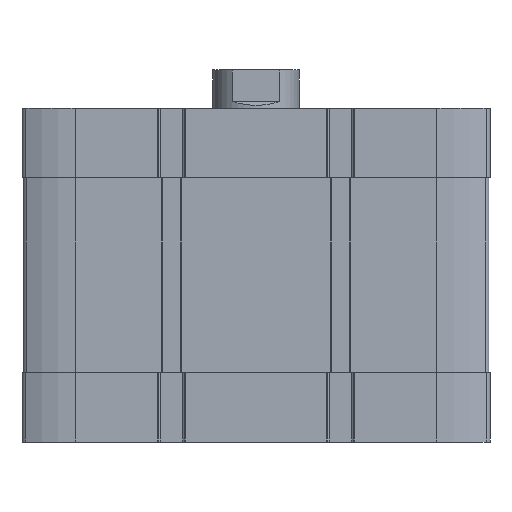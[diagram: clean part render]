
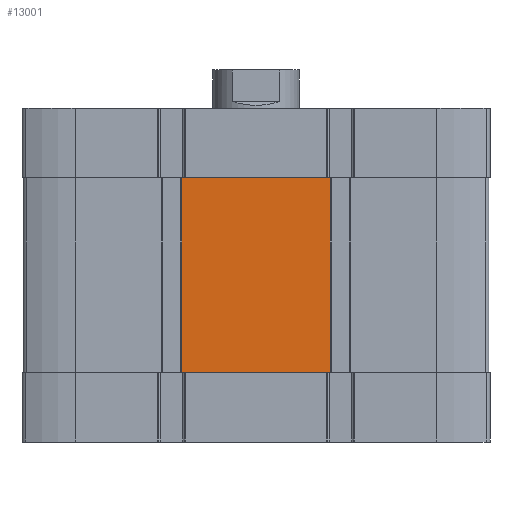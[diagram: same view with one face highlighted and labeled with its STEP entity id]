
A CAD part, front view. The second image highlights one B-rep face of the part: STEP entity #13001.
In plain terms, the highlighted planar face has unit normal (0, -1, 0).
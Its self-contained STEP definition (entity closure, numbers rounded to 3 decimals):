
#106 = ORIENTED_EDGE ( 'NONE', *, *, #8841, .T. ) ;
#111 = VERTEX_POINT ( 'NONE', #13585 ) ;
#292 = DIRECTION ( 'NONE',  ( 1., 0., 0. ) ) ;
#547 = CARTESIAN_POINT ( 'NONE',  ( -20.687, -67., -76. ) ) ;
#930 = CARTESIAN_POINT ( 'NONE',  ( -21.3, -67., -76. ) ) ;
#1263 = LINE ( 'NONE', #13184, #3675 ) ;
#2049 = LINE ( 'NONE', #11438, #10511 ) ;
#2422 = LINE ( 'NONE', #15578, #14403 ) ;
#2745 = LINE ( 'NONE', #10654, #15562 ) ;
#2944 = CARTESIAN_POINT ( 'NONE',  ( -67., -67., -20. ) ) ;
#3275 = ORIENTED_EDGE ( 'NONE', *, *, #9862, .F. ) ;
#3461 = DIRECTION ( 'NONE',  ( 0., -1., 0. ) ) ;
#3521 = DIRECTION ( 'NONE',  ( 0., 0., 1. ) ) ;
#3529 = CARTESIAN_POINT ( 'NONE',  ( 20.687, -67., -20. ) ) ;
#3675 = VECTOR ( 'NONE', #15889, 1000. ) ;
#3774 = CARTESIAN_POINT ( 'NONE',  ( 20.687, -67., -76. ) ) ;
#4505 = DIRECTION ( 'NONE',  ( 0., 0., -1. ) ) ;
#4667 = CARTESIAN_POINT ( 'NONE',  ( -67., -67., -76. ) ) ;
#5454 = EDGE_CURVE ( 'NONE', #12019, #12400, #1263, .T. ) ;
#5914 = VERTEX_POINT ( 'NONE', #8820 ) ;
#5923 = CARTESIAN_POINT ( 'NONE',  ( -67., -67., -20. ) ) ;
#6288 = EDGE_LOOP ( 'NONE', ( #12609, #14371, #9118, #106, #8650, #3275, #16587, #13915 ) ) ;
#6695 = CARTESIAN_POINT ( 'NONE',  ( -21.3, -67., -20. ) ) ;
#7474 = DIRECTION ( 'NONE',  ( 1., 0., 0. ) ) ;
#7537 = PLANE ( 'NONE',  #14661 ) ;
#7783 = EDGE_CURVE ( 'NONE', #111, #16148, #2422, .T. ) ;
#8114 = LINE ( 'NONE', #12024, #8273 ) ;
#8138 = DIRECTION ( 'NONE',  ( 1., 0., 0. ) ) ;
#8273 = VECTOR ( 'NONE', #292, 1000. ) ;
#8650 = ORIENTED_EDGE ( 'NONE', *, *, #14484, .T. ) ;
#8699 = EDGE_CURVE ( 'NONE', #16847, #9288, #10222, .T. ) ;
#8820 = CARTESIAN_POINT ( 'NONE',  ( 21.3, -67., -20. ) ) ;
#8841 = EDGE_CURVE ( 'NONE', #9288, #9714, #2745, .T. ) ;
#9118 = ORIENTED_EDGE ( 'NONE', *, *, #8699, .T. ) ;
#9288 = VERTEX_POINT ( 'NONE', #3774 ) ;
#9356 = LINE ( 'NONE', #2944, #10292 ) ;
#9714 = VERTEX_POINT ( 'NONE', #13402 ) ;
#9862 = EDGE_CURVE ( 'NONE', #16148, #5914, #11392, .T. ) ;
#10136 = EDGE_CURVE ( 'NONE', #12400, #111, #9356, .T. ) ;
#10222 = LINE ( 'NONE', #14156, #11935 ) ;
#10292 = VECTOR ( 'NONE', #12066, 1000. ) ;
#10317 = DIRECTION ( 'NONE',  ( 1., 0., 0. ) ) ;
#10511 = VECTOR ( 'NONE', #3521, 1000. ) ;
#10654 = CARTESIAN_POINT ( 'NONE',  ( -67., -67., -76. ) ) ;
#11392 = LINE ( 'NONE', #5923, #11963 ) ;
#11438 = CARTESIAN_POINT ( 'NONE',  ( 21.3, -67., -76. ) ) ;
#11935 = VECTOR ( 'NONE', #10317, 1000. ) ;
#11963 = VECTOR ( 'NONE', #7474, 1000. ) ;
#12019 = VERTEX_POINT ( 'NONE', #930 ) ;
#12024 = CARTESIAN_POINT ( 'NONE',  ( -67., -67., -76. ) ) ;
#12066 = DIRECTION ( 'NONE',  ( 1., 0., 0. ) ) ;
#12400 = VERTEX_POINT ( 'NONE', #6695 ) ;
#12609 = ORIENTED_EDGE ( 'NONE', *, *, #5454, .F. ) ;
#12759 = FACE_OUTER_BOUND ( 'NONE', #6288, .T. ) ;
#13001 = ADVANCED_FACE ( 'NONE', ( #12759 ), #7537, .T. ) ;
#13184 = CARTESIAN_POINT ( 'NONE',  ( -21.3, -67., -76. ) ) ;
#13402 = CARTESIAN_POINT ( 'NONE',  ( 21.3, -67., -76. ) ) ;
#13585 = CARTESIAN_POINT ( 'NONE',  ( -20.687, -67., -20. ) ) ;
#13733 = EDGE_CURVE ( 'NONE', #12019, #16847, #8114, .T. ) ;
#13915 = ORIENTED_EDGE ( 'NONE', *, *, #10136, .F. ) ;
#14156 = CARTESIAN_POINT ( 'NONE',  ( -21.3, -67., -76. ) ) ;
#14371 = ORIENTED_EDGE ( 'NONE', *, *, #13733, .T. ) ;
#14403 = VECTOR ( 'NONE', #14430, 1000. ) ;
#14430 = DIRECTION ( 'NONE',  ( 1., 0., 0. ) ) ;
#14484 = EDGE_CURVE ( 'NONE', #9714, #5914, #2049, .T. ) ;
#14661 = AXIS2_PLACEMENT_3D ( 'NONE', #4667, #3461, #4505 ) ;
#15562 = VECTOR ( 'NONE', #8138, 1000. ) ;
#15578 = CARTESIAN_POINT ( 'NONE',  ( -21.3, -67., -20. ) ) ;
#15889 = DIRECTION ( 'NONE',  ( 0., 0., 1. ) ) ;
#16148 = VERTEX_POINT ( 'NONE', #3529 ) ;
#16587 = ORIENTED_EDGE ( 'NONE', *, *, #7783, .F. ) ;
#16847 = VERTEX_POINT ( 'NONE', #547 ) ;
